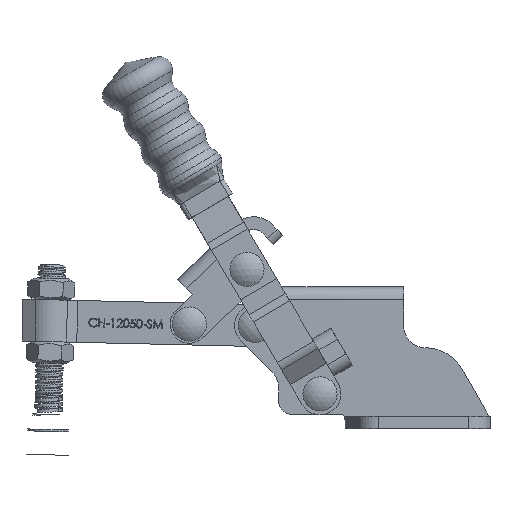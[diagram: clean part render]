
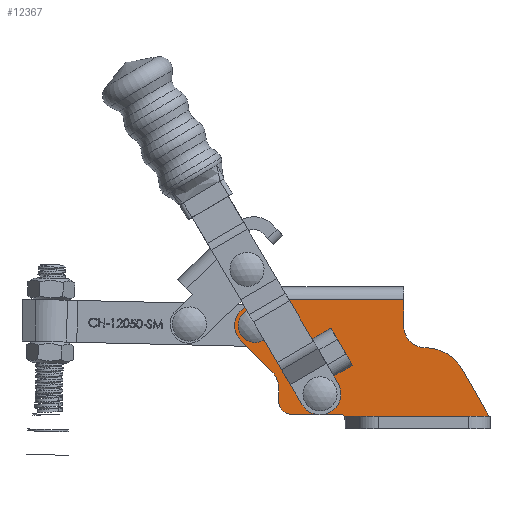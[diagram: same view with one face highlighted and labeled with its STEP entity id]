
A CAD part, left-side view. The second image highlights one B-rep face of the part: STEP entity #12367.
In plain terms, the highlighted planar face has unit normal (-1, 0, 0).
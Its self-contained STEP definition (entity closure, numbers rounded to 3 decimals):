
#183=FACE_BOUND('',#2058,.T.);
#184=FACE_BOUND('',#2059,.T.);
#185=FACE_BOUND('',#2060,.T.);
#994=PLANE('',#13343);
#1354=FACE_OUTER_BOUND('',#2057,.T.);
#2057=EDGE_LOOP('',(#8878,#8879,#8880,#8881,#8882,#8883,#8884,#8885,#8886,
#8887,#8888,#8889,#8890,#8891,#8892));
#2058=EDGE_LOOP('',(#8893,#8894,#8895,#8896));
#2059=EDGE_LOOP('',(#8897,#8898));
#2060=EDGE_LOOP('',(#8899,#8900));
#2806=LINE('',#17101,#3876);
#2855=LINE('',#17290,#3925);
#2856=LINE('',#17294,#3926);
#2857=LINE('',#17298,#3927);
#2858=LINE('',#17301,#3928);
#2859=LINE('',#17303,#3929);
#2860=LINE('',#17307,#3930);
#2865=LINE('',#17321,#3935);
#2869=LINE('',#17333,#3939);
#2873=LINE('',#17345,#3943);
#2877=LINE('',#17355,#3947);
#2881=LINE('',#17367,#3951);
#3876=VECTOR('',#14306,1000.);
#3925=VECTOR('',#14439,1000.);
#3926=VECTOR('',#14444,1000.);
#3927=VECTOR('',#14449,1000.);
#3928=VECTOR('',#14454,1000.);
#3929=VECTOR('',#14457,1000.);
#3930=VECTOR('',#14460,1000.);
#3935=VECTOR('',#14473,1000.);
#3939=VECTOR('',#14485,1000.);
#3943=VECTOR('',#14497,1000.);
#3947=VECTOR('',#14511,1000.);
#3951=VECTOR('',#14527,1000.);
#4848=CIRCLE('',#13156,2.);
#4849=CIRCLE('',#13157,2.);
#4852=CIRCLE('',#13161,2.);
#4853=CIRCLE('',#13162,2.);
#4855=CIRCLE('',#13165,10.);
#4930=CIRCLE('',#13321,4.8);
#4932=CIRCLE('',#13325,5.5);
#4934=CIRCLE('',#13329,3.);
#4937=CIRCLE('',#13334,1.);
#4938=CIRCLE('',#13338,5.);
#4941=CIRCLE('',#13344,2.);
#5162=VERTEX_POINT('',#16679);
#5163=VERTEX_POINT('',#16681);
#5166=VERTEX_POINT('',#16689);
#5167=VERTEX_POINT('',#16691);
#5170=VERTEX_POINT('',#16698);
#5171=VERTEX_POINT('',#16700);
#5276=VERTEX_POINT('',#17084);
#5277=VERTEX_POINT('',#17097);
#5316=VERTEX_POINT('',#17223);
#5321=VERTEX_POINT('',#17273);
#5324=VERTEX_POINT('',#17287);
#5325=VERTEX_POINT('',#17289);
#5326=VERTEX_POINT('',#17293);
#5327=VERTEX_POINT('',#17297);
#5328=VERTEX_POINT('',#17305);
#5329=VERTEX_POINT('',#17306);
#5332=VERTEX_POINT('',#17314);
#5334=VERTEX_POINT('',#17320);
#5336=VERTEX_POINT('',#17326);
#5338=VERTEX_POINT('',#17332);
#5340=VERTEX_POINT('',#17338);
#5342=VERTEX_POINT('',#17344);
#5344=VERTEX_POINT('',#17358);
#6438=EDGE_CURVE('',#5162,#5163,#4848,.T.);
#6439=EDGE_CURVE('',#5163,#5162,#4849,.T.);
#6443=EDGE_CURVE('',#5166,#5167,#4852,.T.);
#6444=EDGE_CURVE('',#5167,#5166,#4853,.T.);
#6447=EDGE_CURVE('',#5171,#5170,#4855,.T.);
#6607=EDGE_CURVE('',#5276,#5277,#2806,.T.);
#6679=EDGE_CURVE('',#5324,#5325,#2855,.T.);
#6681=EDGE_CURVE('',#5325,#5326,#2856,.T.);
#6683=EDGE_CURVE('',#5326,#5327,#2857,.T.);
#6685=EDGE_CURVE('',#5327,#5324,#2858,.T.);
#6686=EDGE_CURVE('',#5316,#5321,#2859,.T.);
#6687=EDGE_CURVE('',#5328,#5329,#2860,.T.);
#6691=EDGE_CURVE('',#5329,#5332,#4930,.T.);
#6694=EDGE_CURVE('',#5332,#5334,#2865,.T.);
#6697=EDGE_CURVE('',#5334,#5336,#4932,.T.);
#6700=EDGE_CURVE('',#5336,#5338,#2869,.T.);
#6703=EDGE_CURVE('',#5338,#5340,#4934,.T.);
#6706=EDGE_CURVE('',#5340,#5342,#2873,.T.);
#6710=EDGE_CURVE('',#5342,#5316,#4937,.T.);
#6712=EDGE_CURVE('',#5321,#5171,#2877,.T.);
#6714=EDGE_CURVE('',#5170,#5344,#4938,.T.);
#6719=EDGE_CURVE('',#5344,#5277,#2881,.T.);
#6720=EDGE_CURVE('',#5276,#5328,#4941,.T.);
#8878=ORIENTED_EDGE('',*,*,#6607,.F.);
#8879=ORIENTED_EDGE('',*,*,#6720,.T.);
#8880=ORIENTED_EDGE('',*,*,#6687,.T.);
#8881=ORIENTED_EDGE('',*,*,#6691,.T.);
#8882=ORIENTED_EDGE('',*,*,#6694,.T.);
#8883=ORIENTED_EDGE('',*,*,#6697,.T.);
#8884=ORIENTED_EDGE('',*,*,#6700,.T.);
#8885=ORIENTED_EDGE('',*,*,#6703,.T.);
#8886=ORIENTED_EDGE('',*,*,#6706,.T.);
#8887=ORIENTED_EDGE('',*,*,#6710,.T.);
#8888=ORIENTED_EDGE('',*,*,#6686,.T.);
#8889=ORIENTED_EDGE('',*,*,#6712,.T.);
#8890=ORIENTED_EDGE('',*,*,#6447,.T.);
#8891=ORIENTED_EDGE('',*,*,#6714,.T.);
#8892=ORIENTED_EDGE('',*,*,#6719,.T.);
#8893=ORIENTED_EDGE('',*,*,#6685,.F.);
#8894=ORIENTED_EDGE('',*,*,#6683,.F.);
#8895=ORIENTED_EDGE('',*,*,#6681,.F.);
#8896=ORIENTED_EDGE('',*,*,#6679,.F.);
#8897=ORIENTED_EDGE('',*,*,#6444,.F.);
#8898=ORIENTED_EDGE('',*,*,#6443,.F.);
#8899=ORIENTED_EDGE('',*,*,#6439,.F.);
#8900=ORIENTED_EDGE('',*,*,#6438,.F.);
#12367=ADVANCED_FACE('',(#1354,#183,#184,#185),#994,.T.);
#13156=AXIS2_PLACEMENT_3D('',#16682,#13979,#13980);
#13157=AXIS2_PLACEMENT_3D('',#16683,#13981,#13982);
#13161=AXIS2_PLACEMENT_3D('',#16692,#13990,#13991);
#13162=AXIS2_PLACEMENT_3D('',#16693,#13992,#13993);
#13165=AXIS2_PLACEMENT_3D('',#16701,#13999,#14000);
#13321=AXIS2_PLACEMENT_3D('',#17315,#14466,#14467);
#13325=AXIS2_PLACEMENT_3D('',#17327,#14478,#14479);
#13329=AXIS2_PLACEMENT_3D('',#17339,#14490,#14491);
#13334=AXIS2_PLACEMENT_3D('',#17351,#14504,#14505);
#13338=AXIS2_PLACEMENT_3D('',#17359,#14515,#14516);
#13343=AXIS2_PLACEMENT_3D('',#17368,#14528,#14529);
#13344=AXIS2_PLACEMENT_3D('',#17369,#14530,#14531);
#13979=DIRECTION('center_axis',(-1.,0.,0.));
#13980=DIRECTION('ref_axis',(0.,0.,1.));
#13981=DIRECTION('center_axis',(-1.,0.,0.));
#13982=DIRECTION('ref_axis',(0.,0.,1.));
#13990=DIRECTION('center_axis',(-1.,0.,0.));
#13991=DIRECTION('ref_axis',(0.,0.,1.));
#13992=DIRECTION('center_axis',(-1.,0.,0.));
#13993=DIRECTION('ref_axis',(0.,0.,1.));
#13999=DIRECTION('center_axis',(-1.,0.,0.));
#14000=DIRECTION('ref_axis',(0.,0.,1.));
#14306=DIRECTION('',(0.,-1.,0.));
#14439=DIRECTION('',(0.,-0.5,-0.866));
#14444=DIRECTION('',(0.,-0.866,0.5));
#14449=DIRECTION('',(0.,0.5,0.866));
#14454=DIRECTION('',(0.,0.866,-0.5));
#14457=DIRECTION('',(0.,-1.,0.));
#14460=DIRECTION('',(0.,1.,0.));
#14466=DIRECTION('center_axis',(-1.,0.,0.));
#14467=DIRECTION('ref_axis',(0.,0.,1.));
#14473=DIRECTION('',(0.,-0.707,-0.707));
#14478=DIRECTION('center_axis',(1.,0.,0.));
#14479=DIRECTION('ref_axis',(0.,0.,1.));
#14485=DIRECTION('',(0.,0.,-1.));
#14490=DIRECTION('center_axis',(-1.,0.,0.));
#14491=DIRECTION('ref_axis',(0.,0.,1.));
#14497=DIRECTION('',(0.,-1.,0.));
#14504=DIRECTION('center_axis',(1.,0.,0.));
#14505=DIRECTION('ref_axis',(0.,0.,1.));
#14511=DIRECTION('',(0.,0.493,0.87));
#14515=DIRECTION('center_axis',(1.,0.,0.));
#14516=DIRECTION('ref_axis',(0.,0.,1.));
#14527=DIRECTION('',(0.,0.,1.));
#14528=DIRECTION('center_axis',(-1.,0.,0.));
#14529=DIRECTION('ref_axis',(0.,0.,1.));
#14530=DIRECTION('center_axis',(1.,0.,0.));
#14531=DIRECTION('ref_axis',(0.,0.,1.));
#16679=CARTESIAN_POINT('',(-2879.617,607.906,-11.044));
#16681=CARTESIAN_POINT('',(-2879.617,607.906,-7.044));
#16682=CARTESIAN_POINT('Origin',(-2879.617,607.906,-9.044));
#16683=CARTESIAN_POINT('Origin',(-2879.617,607.906,-9.044));
#16689=CARTESIAN_POINT('',(-2879.617,592.706,-27.044));
#16691=CARTESIAN_POINT('',(-2879.617,592.706,-23.044));
#16692=CARTESIAN_POINT('Origin',(-2879.617,592.706,-25.044));
#16693=CARTESIAN_POINT('Origin',(-2879.617,592.706,-25.044));
#16698=CARTESIAN_POINT('',(-2879.617,568.093,-14.237));
#16700=CARTESIAN_POINT('',(-2879.617,559.373,-19.309));
#16701=CARTESIAN_POINT('Origin',(-2879.617,568.075,-24.237));
#17084=CARTESIAN_POINT('',(-2879.617,603.455,-3.001));
#17097=CARTESIAN_POINT('',(-2879.617,573.103,-3.001));
#17101=CARTESIAN_POINT('',(-2879.617,605.306,-3.001));
#17223=CARTESIAN_POINT('',(-2879.617,587.016,-30.234));
#17273=CARTESIAN_POINT('',(-2879.617,553.187,-30.234));
#17287=CARTESIAN_POINT('',(-2879.617,594.473,-12.184));
#17289=CARTESIAN_POINT('',(-2879.617,589.473,-20.844));
#17290=CARTESIAN_POINT('',(-2879.617,594.473,-12.184));
#17293=CARTESIAN_POINT('',(-2879.617,585.143,-18.344));
#17294=CARTESIAN_POINT('',(-2879.617,589.473,-20.844));
#17297=CARTESIAN_POINT('',(-2879.617,590.143,-9.684));
#17298=CARTESIAN_POINT('',(-2879.617,585.143,-18.344));
#17301=CARTESIAN_POINT('',(-2879.617,590.143,-9.684));
#17303=CARTESIAN_POINT('',(-2879.617,605.306,-30.234));
#17305=CARTESIAN_POINT('',(-2879.617,605.306,-4.244));
#17306=CARTESIAN_POINT('',(-2879.617,607.906,-4.244));
#17307=CARTESIAN_POINT('',(-2879.617,605.306,-4.244));
#17314=CARTESIAN_POINT('',(-2879.617,611.3,-12.438));
#17315=CARTESIAN_POINT('Origin',(-2879.617,607.906,-9.044));
#17320=CARTESIAN_POINT('',(-2879.617,604.017,-19.722));
#17321=CARTESIAN_POINT('',(-2879.617,611.3,-12.438));
#17326=CARTESIAN_POINT('',(-2879.617,602.406,-23.611));
#17327=CARTESIAN_POINT('Origin',(-2879.617,607.906,-23.611));
#17332=CARTESIAN_POINT('',(-2879.617,602.406,-26.844));
#17333=CARTESIAN_POINT('',(-2879.617,602.406,-23.611));
#17338=CARTESIAN_POINT('',(-2879.617,599.406,-29.844));
#17339=CARTESIAN_POINT('Origin',(-2879.617,599.406,-26.844));
#17344=CARTESIAN_POINT('',(-2879.617,587.809,-29.844));
#17345=CARTESIAN_POINT('',(-2879.617,599.406,-29.844));
#17351=CARTESIAN_POINT('Origin',(-2879.617,587.809,-30.844));
#17355=CARTESIAN_POINT('',(-2879.617,552.909,-30.725));
#17358=CARTESIAN_POINT('',(-2879.617,573.103,-9.237));
#17359=CARTESIAN_POINT('Origin',(-2879.617,568.103,-9.237));
#17367=CARTESIAN_POINT('',(-2879.617,573.103,-9.237));
#17368=CARTESIAN_POINT('Origin',(-2879.617,605.306,6.956));
#17369=CARTESIAN_POINT('Origin',(-2879.617,605.306,-2.244));
